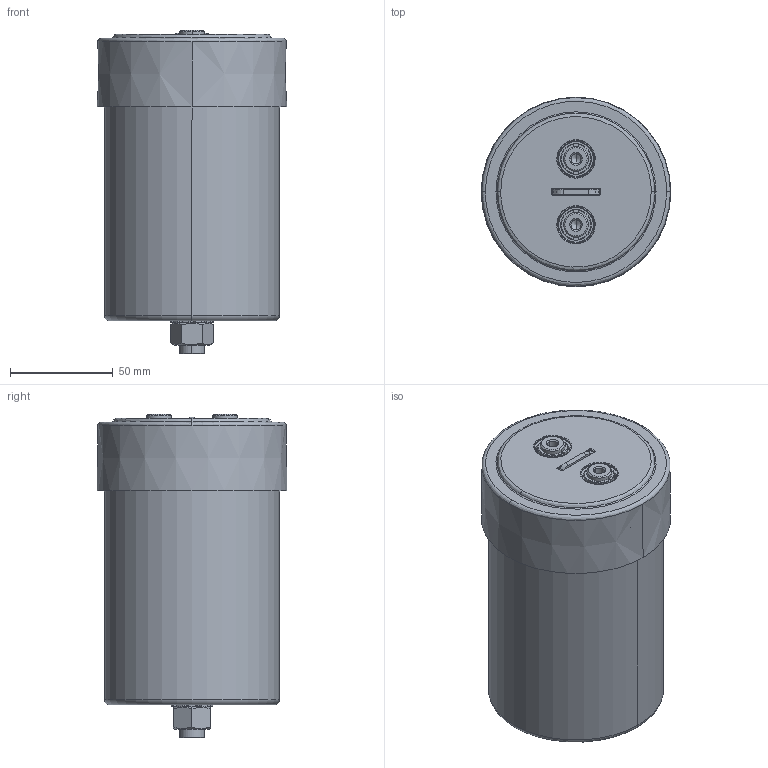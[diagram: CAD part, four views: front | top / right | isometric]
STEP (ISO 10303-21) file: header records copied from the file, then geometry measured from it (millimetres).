
FILE_DESCRIPTION (( 'STEP AP203' ), '1' );
FILE_NAME ('B25680Cx_85x139_141.STEP', '2021-09-13T03:45:28', ( '' ), ( '' ), 'SwSTEP 2.0', 'SolidWorks 2017', '' );
FILE_SCHEMA (( 'CONFIG_CONTROL_DESIGN' ));
Length unit declared in the file: millimetre
Products named in the file (1): B25680Cx_85x139_141
Bounding box: 92.08 x 92.08 x 157 mm (x, y, z)
Volume: 77835.4 mm3; surface area: 146498.2 mm2
Topology: 1 solids, 6 shells, 480 faces, 1146 edges, 716 vertices
Faces by surface type: cylinder 164, plane 161, bspline 64, cone 61, torus 30
Entity records: 18446 total; most frequent: CARTESIAN_POINT 7245, DIRECTION 2438, ORIENTED_EDGE 2284, EDGE_CURVE 1142, AXIS2_PLACEMENT_3D 1001, VERTEX_POINT 716, CIRCLE 584, EDGE_LOOP 536
